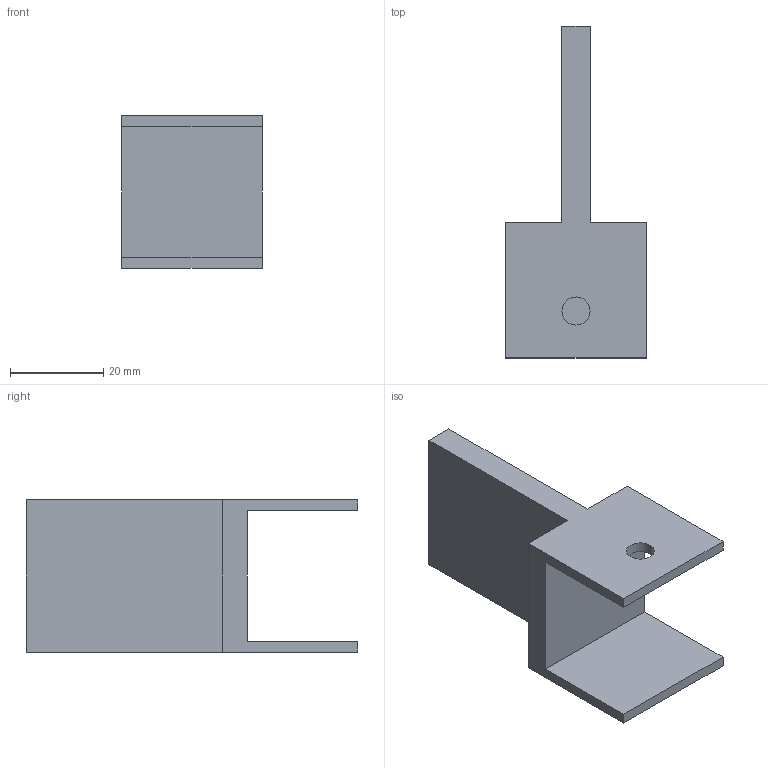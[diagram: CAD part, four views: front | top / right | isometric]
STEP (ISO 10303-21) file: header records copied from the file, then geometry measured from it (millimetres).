
FILE_DESCRIPTION (( 'STEP AP214' ), '1' );
FILE_NAME ('JB-552.step', '2023-12-26T01:15:21', ( 'catia' ), ( 'HP Inc.' ), 'SwSTEP 2.0', 'SolidWorks 2021', '' );
FILE_SCHEMA (( 'AUTOMOTIVE_DESIGN' ));
Length unit declared in the file: millimetre
Products named in the file (1): JB-552
Bounding box: 30 x 71 x 32.6 mm (x, y, z)
Volume: 16604.2 mm3; surface area: 8910.8 mm2
Topology: 1 solids, 1 shells, 16 faces, 42 edges, 28 vertices
Faces by surface type: plane 14, cylinder 2
Entity records: 528 total; most frequent: CARTESIAN_POINT 87, ORIENTED_EDGE 84, DIRECTION 80, EDGE_CURVE 42, LINE 38, VECTOR 38, VERTEX_POINT 28, AXIS2_PLACEMENT_3D 21
